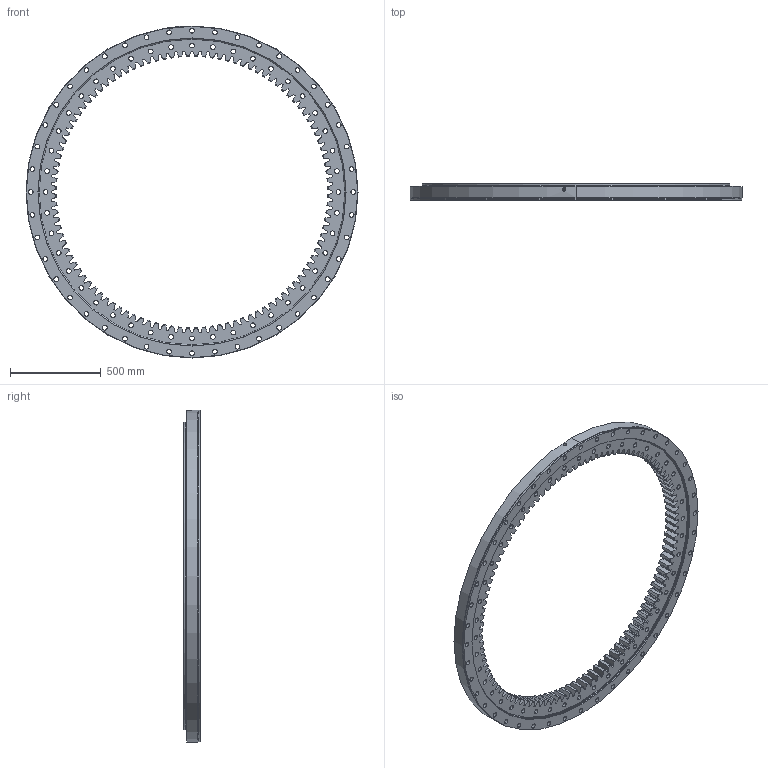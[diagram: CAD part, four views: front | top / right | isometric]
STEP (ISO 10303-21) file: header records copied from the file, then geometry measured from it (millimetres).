
FILE_DESCRIPTION (( 'STEP AP214' ), '1' );
FILE_NAME ('SM2130-1-1834AA.STEP', '2022-11-24T07:38:30', ( '' ), ( '' ), 'SwSTEP 2.0', 'SolidWorks 2020', '' );
FILE_SCHEMA (( 'AUTOMOTIVE_DESIGN' ));
Length unit declared in the file: millimetre
Products named in the file (1): SM2130-1-1834AA
Bounding box: 1834 x 90 x 1834 mm (x, y, z)
Volume: 57643416.1 mm3; surface area: 4511075.4 mm2
Topology: 4 solids, 4 shells, 983 faces, 2896 edges, 1928 vertices
Faces by surface type: plane 447, cylinder 310, cone 226
Entity records: 33819 total; most frequent: CARTESIAN_POINT 7410, ORIENTED_EDGE 5792, DIRECTION 5168, EDGE_CURVE 2896, VERTEX_POINT 1928, AXIS2_PLACEMENT_3D 1830, VECTOR 1508, LINE 1508
